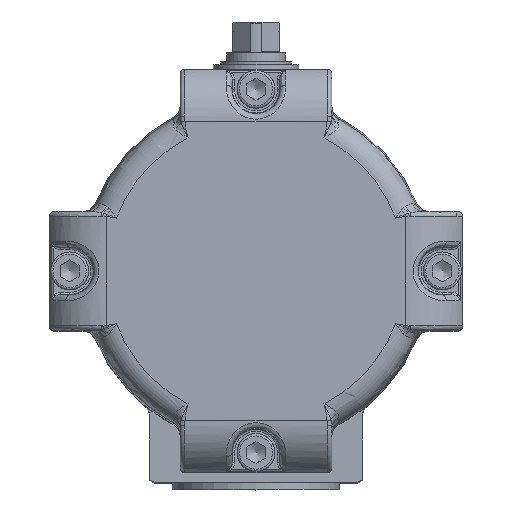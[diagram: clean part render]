
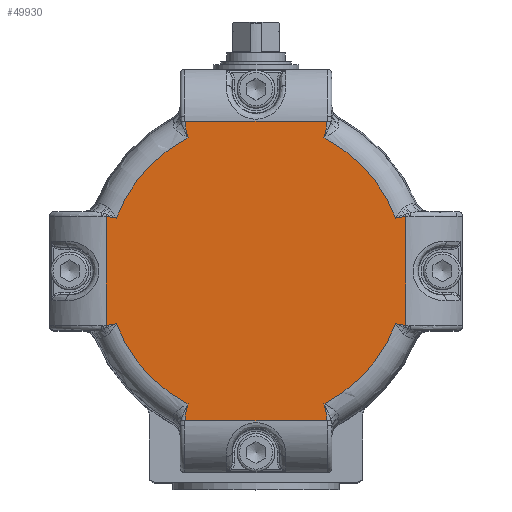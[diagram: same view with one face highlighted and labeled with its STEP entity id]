
A CAD part, top view. The second image highlights one B-rep face of the part: STEP entity #49930.
In plain terms, the highlighted planar face has unit normal (0, 0, 1).
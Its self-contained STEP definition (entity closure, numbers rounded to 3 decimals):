
#2277=PLANE('',#55312);
#4646=FACE_OUTER_BOUND('',#7754,.T.);
#7754=EDGE_LOOP('',(#39621,#39622,#39623,#39624,#39625,#39626,#39627,#39628,
#39629,#39630,#39631,#39632,#39633,#39634,#39635,#39636));
#11318=CIRCLE('',#55313,30.);
#11319=CIRCLE('',#55314,62.916);
#11320=CIRCLE('',#55315,23.);
#11321=CIRCLE('',#55316,23.);
#11322=CIRCLE('',#55317,62.916);
#11323=CIRCLE('',#55318,30.);
#11324=CIRCLE('',#55319,30.);
#11325=CIRCLE('',#55320,62.916);
#11326=CIRCLE('',#55321,23.);
#11327=CIRCLE('',#55322,23.);
#11328=CIRCLE('',#55323,62.916);
#11329=CIRCLE('',#55324,30.);
#15159=LINE('',#99611,#17127);
#15170=LINE('',#99899,#17138);
#15181=LINE('',#100185,#17149);
#15192=LINE('',#100490,#17160);
#17127=VECTOR('',#66716,10.);
#17138=VECTOR('',#66771,10.);
#17149=VECTOR('',#66832,10.);
#17160=VECTOR('',#66893,10.);
#20657=VERTEX_POINT('',#99585);
#20663=VERTEX_POINT('',#99606);
#20686=VERTEX_POINT('',#99897);
#20687=VERTEX_POINT('',#99898);
#20715=VERTEX_POINT('',#100179);
#20716=VERTEX_POINT('',#100184);
#20742=VERTEX_POINT('',#100484);
#20743=VERTEX_POINT('',#100489);
#20909=VERTEX_POINT('',#102354);
#20910=VERTEX_POINT('',#102356);
#20911=VERTEX_POINT('',#102359);
#20912=VERTEX_POINT('',#102361);
#20913=VERTEX_POINT('',#102364);
#20914=VERTEX_POINT('',#102366);
#20915=VERTEX_POINT('',#102369);
#20916=VERTEX_POINT('',#102371);
#27007=EDGE_CURVE('',#20657,#20663,#15159,.T.);
#27044=EDGE_CURVE('',#20686,#20687,#15170,.T.);
#27088=EDGE_CURVE('',#20715,#20716,#15181,.T.);
#27131=EDGE_CURVE('',#20743,#20742,#15192,.T.);
#27378=EDGE_CURVE('',#20909,#20686,#11318,.T.);
#27379=EDGE_CURVE('',#20910,#20909,#11319,.T.);
#27380=EDGE_CURVE('',#20716,#20910,#11320,.T.);
#27381=EDGE_CURVE('',#20911,#20715,#11321,.T.);
#27382=EDGE_CURVE('',#20912,#20911,#11322,.T.);
#27383=EDGE_CURVE('',#20743,#20912,#11323,.T.);
#27384=EDGE_CURVE('',#20913,#20742,#11324,.T.);
#27385=EDGE_CURVE('',#20914,#20913,#11325,.T.);
#27386=EDGE_CURVE('',#20657,#20914,#11326,.T.);
#27387=EDGE_CURVE('',#20915,#20663,#11327,.T.);
#27388=EDGE_CURVE('',#20916,#20915,#11328,.T.);
#27389=EDGE_CURVE('',#20687,#20916,#11329,.T.);
#39621=ORIENTED_EDGE('',*,*,#27044,.F.);
#39622=ORIENTED_EDGE('',*,*,#27378,.F.);
#39623=ORIENTED_EDGE('',*,*,#27379,.F.);
#39624=ORIENTED_EDGE('',*,*,#27380,.F.);
#39625=ORIENTED_EDGE('',*,*,#27088,.F.);
#39626=ORIENTED_EDGE('',*,*,#27381,.F.);
#39627=ORIENTED_EDGE('',*,*,#27382,.F.);
#39628=ORIENTED_EDGE('',*,*,#27383,.F.);
#39629=ORIENTED_EDGE('',*,*,#27131,.T.);
#39630=ORIENTED_EDGE('',*,*,#27384,.F.);
#39631=ORIENTED_EDGE('',*,*,#27385,.F.);
#39632=ORIENTED_EDGE('',*,*,#27386,.F.);
#39633=ORIENTED_EDGE('',*,*,#27007,.T.);
#39634=ORIENTED_EDGE('',*,*,#27387,.F.);
#39635=ORIENTED_EDGE('',*,*,#27388,.F.);
#39636=ORIENTED_EDGE('',*,*,#27389,.F.);
#49930=ADVANCED_FACE('',(#4646),#2277,.T.);
#55312=AXIS2_PLACEMENT_3D('',#102353,#67277,#67278);
#55313=AXIS2_PLACEMENT_3D('',#102355,#67279,#67280);
#55314=AXIS2_PLACEMENT_3D('',#102357,#67281,#67282);
#55315=AXIS2_PLACEMENT_3D('',#102358,#67283,#67284);
#55316=AXIS2_PLACEMENT_3D('',#102360,#67285,#67286);
#55317=AXIS2_PLACEMENT_3D('',#102362,#67287,#67288);
#55318=AXIS2_PLACEMENT_3D('',#102363,#67289,#67290);
#55319=AXIS2_PLACEMENT_3D('',#102365,#67291,#67292);
#55320=AXIS2_PLACEMENT_3D('',#102367,#67293,#67294);
#55321=AXIS2_PLACEMENT_3D('',#102368,#67295,#67296);
#55322=AXIS2_PLACEMENT_3D('',#102370,#67297,#67298);
#55323=AXIS2_PLACEMENT_3D('',#102372,#67299,#67300);
#55324=AXIS2_PLACEMENT_3D('',#102373,#67301,#67302);
#66716=DIRECTION('',(0.,-1.,0.));
#66771=DIRECTION('',(-1.,0.,0.));
#66832=DIRECTION('',(0.,-1.,0.));
#66893=DIRECTION('',(-1.,0.,0.));
#67277=DIRECTION('center_axis',(0.,0.,
1.));
#67278=DIRECTION('ref_axis',(0.,-1.,0.));
#67279=DIRECTION('center_axis',(0.,0.,
-1.));
#67280=DIRECTION('ref_axis',(0.982,0.188,0.));
#67281=DIRECTION('center_axis',(0.,0.,
-1.));
#67282=DIRECTION('ref_axis',(-1.,0.,0.));
#67283=DIRECTION('center_axis',(0.,0.,
-1.));
#67284=DIRECTION('ref_axis',(-0.178,-0.984,0.));
#67285=DIRECTION('center_axis',(0.,0.,
-1.));
#67286=DIRECTION('ref_axis',(-0.178,0.984,0.));
#67287=DIRECTION('center_axis',(0.,0.,
-1.));
#67288=DIRECTION('ref_axis',(-1.,0.,0.));
#67289=DIRECTION('center_axis',(0.,0.,
-1.));
#67290=DIRECTION('ref_axis',(0.982,-0.188,0.));
#67291=DIRECTION('center_axis',(0.,0.,
-1.));
#67292=DIRECTION('ref_axis',(-0.982,-0.188,0.));
#67293=DIRECTION('center_axis',(0.,0.,
-1.));
#67294=DIRECTION('ref_axis',(-1.,0.,0.));
#67295=DIRECTION('center_axis',(0.,0.,
-1.));
#67296=DIRECTION('ref_axis',(0.178,0.984,0.));
#67297=DIRECTION('center_axis',(0.,0.,
-1.));
#67298=DIRECTION('ref_axis',(0.178,-0.984,0.));
#67299=DIRECTION('center_axis',(0.,0.,
-1.));
#67300=DIRECTION('ref_axis',(-1.,0.,0.));
#67301=DIRECTION('center_axis',(0.,0.,
-1.));
#67302=DIRECTION('ref_axis',(-0.982,0.188,0.));
#99585=CARTESIAN_POINT('',(-63.,22.913,115.));
#99606=CARTESIAN_POINT('',(-63.,-22.913,115.));
#99611=CARTESIAN_POINT('',(-63.,0.,115.));
#99897=CARTESIAN_POINT('',(29.933,-63.,115.));
#99898=CARTESIAN_POINT('',(-29.933,-63.,115.));
#99899=CARTESIAN_POINT('',(0.,-63.,115.));
#100179=CARTESIAN_POINT('',(63.,22.913,115.));
#100184=CARTESIAN_POINT('',(63.,-22.913,115.));
#100185=CARTESIAN_POINT('',(63.,0.,115.));
#100484=CARTESIAN_POINT('',(-29.933,63.,115.));
#100489=CARTESIAN_POINT('',(29.933,63.,115.));
#100490=CARTESIAN_POINT('',(0.,63.,115.));
#102353=CARTESIAN_POINT('Origin',(-31.458,0.,
115.));
#102354=CARTESIAN_POINT('',(28.626,-56.026,115.));
#102355=CARTESIAN_POINT('Origin',(0.,-65.,115.));
#102356=CARTESIAN_POINT('',(58.88,-22.171,115.));
#102357=CARTESIAN_POINT('Origin',(0.,0.,
115.));
#102358=CARTESIAN_POINT('Origin',(65.,0.,115.));
#102359=CARTESIAN_POINT('',(58.88,22.171,115.));
#102360=CARTESIAN_POINT('Origin',(65.,0.,115.));
#102361=CARTESIAN_POINT('',(28.626,56.026,115.));
#102362=CARTESIAN_POINT('Origin',(0.,0.,
115.));
#102363=CARTESIAN_POINT('Origin',(0.,65.,115.));
#102364=CARTESIAN_POINT('',(-28.626,56.026,115.));
#102365=CARTESIAN_POINT('Origin',(0.,65.,115.));
#102366=CARTESIAN_POINT('',(-58.88,22.171,115.));
#102367=CARTESIAN_POINT('Origin',(0.,0.,
115.));
#102368=CARTESIAN_POINT('Origin',(-65.,0.,115.));
#102369=CARTESIAN_POINT('',(-58.88,-22.171,115.));
#102370=CARTESIAN_POINT('Origin',(-65.,0.,115.));
#102371=CARTESIAN_POINT('',(-28.626,-56.026,115.));
#102372=CARTESIAN_POINT('Origin',(0.,0.,
115.));
#102373=CARTESIAN_POINT('Origin',(0.,-65.,115.));
